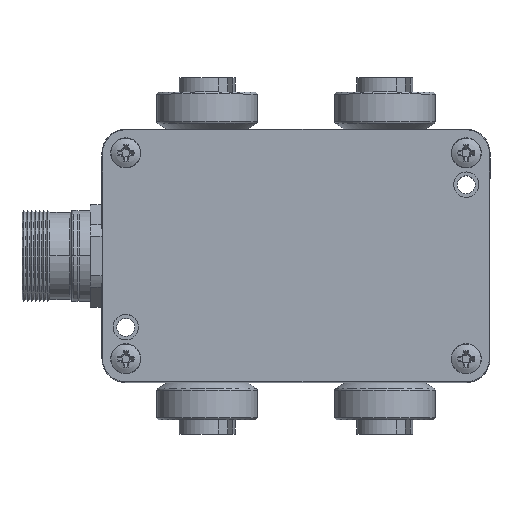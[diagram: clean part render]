
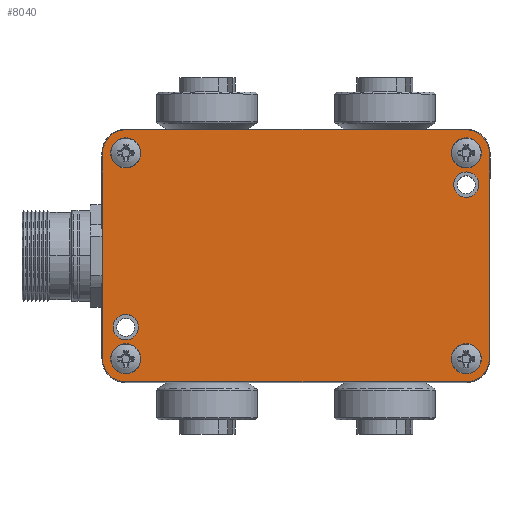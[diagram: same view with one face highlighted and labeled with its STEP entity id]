
A CAD part, top view. The second image highlights one B-rep face of the part: STEP entity #8040.
In plain terms, the highlighted planar face has unit normal (0, 0, 1).
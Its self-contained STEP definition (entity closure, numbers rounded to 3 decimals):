
#5054=CARTESIAN_POINT('',(39.2,-26.,7.5));
#5055=VERTEX_POINT('',#5054);
#5056=CARTESIAN_POINT('',(43.,-26.0,7.5));
#5057=DIRECTION('',(0.0,0.0,-1.0));
#5058=DIRECTION('',(1.0,0.0,0.0));
#5059=AXIS2_PLACEMENT_3D('',#5056,#5057,#5058);
#5060=CIRCLE('',#5059,3.8);
#5061=EDGE_CURVE('',#5055,#5055,#5060,.T.);
#5074=CARTESIAN_POINT('',(-46.8,26.,7.5));
#5075=VERTEX_POINT('',#5074);
#5076=CARTESIAN_POINT('',(-43.,26.,7.5));
#5077=DIRECTION('',(0.0,0.0,-1.0));
#5078=DIRECTION('',(1.0,0.0,0.0));
#5079=AXIS2_PLACEMENT_3D('',#5076,#5077,#5078);
#5080=CIRCLE('',#5079,3.8);
#5081=EDGE_CURVE('',#5075,#5075,#5080,.T.);
#5094=CARTESIAN_POINT('',(39.2,26.,7.5));
#5095=VERTEX_POINT('',#5094);
#5096=CARTESIAN_POINT('',(43.,26.,7.5));
#5097=DIRECTION('',(0.0,0.0,-1.0));
#5098=DIRECTION('',(1.0,0.0,0.0));
#5099=AXIS2_PLACEMENT_3D('',#5096,#5097,#5098);
#5100=CIRCLE('',#5099,3.8);
#5101=EDGE_CURVE('',#5095,#5095,#5100,.T.);
#5114=CARTESIAN_POINT('',(-46.8,-26.,7.5));
#5115=VERTEX_POINT('',#5114);
#5116=CARTESIAN_POINT('',(-43.,-26.,7.5));
#5117=DIRECTION('',(0.0,0.0,-1.0));
#5118=DIRECTION('',(1.0,0.0,0.0));
#5119=AXIS2_PLACEMENT_3D('',#5116,#5117,#5118);
#5120=CIRCLE('',#5119,3.8);
#5121=EDGE_CURVE('',#5115,#5115,#5120,.T.);
#6173=CARTESIAN_POINT('',(-39.8,-18.,7.5));
#6174=VERTEX_POINT('',#6173);
#6175=CARTESIAN_POINT('',(-43.,-18.,7.5));
#6176=DIRECTION('',(0.0,0.0,-1.0));
#6177=DIRECTION('',(-1.0,0.0,0.0));
#6178=AXIS2_PLACEMENT_3D('',#6175,#6176,#6177);
#6179=CIRCLE('',#6178,3.2);
#6180=EDGE_CURVE('',#6174,#6174,#6179,.T.);
#6196=CARTESIAN_POINT('',(46.2,18.0,7.5));
#6197=VERTEX_POINT('',#6196);
#6198=CARTESIAN_POINT('',(43.,18.,7.5));
#6199=DIRECTION('',(0.0,0.0,-1.0));
#6200=DIRECTION('',(-1.0,0.0,0.0));
#6201=AXIS2_PLACEMENT_3D('',#6198,#6199,#6200);
#6202=CIRCLE('',#6201,3.2);
#6203=EDGE_CURVE('',#6197,#6197,#6202,.T.);
#7743=CARTESIAN_POINT('',(-48.834,-26.,7.5));
#7744=VERTEX_POINT('',#7743);
#7751=CARTESIAN_POINT('',(-48.834,26.,7.5));
#7752=VERTEX_POINT('',#7751);
#7753=CARTESIAN_POINT('',(-48.834,-26.,7.5));
#7754=DIRECTION('',(0.0,1.0,0.0));
#7755=VECTOR('',#7754,52.);
#7756=LINE('',#7753,#7755);
#7757=EDGE_CURVE('',#7744,#7752,#7756,.T.);
#7789=CARTESIAN_POINT('',(-43.,31.834,7.5));
#7790=VERTEX_POINT('',#7789);
#7791=CARTESIAN_POINT('',(-43.,26.,7.5));
#7792=DIRECTION('',(0.0,0.0,-1.0));
#7793=DIRECTION('',(1.0,0.0,0.0));
#7794=AXIS2_PLACEMENT_3D('',#7791,#7792,#7793);
#7795=CIRCLE('',#7794,5.834);
#7796=EDGE_CURVE('',#7752,#7790,#7795,.T.);
#7814=CARTESIAN_POINT('',(43.,31.834,7.5));
#7815=VERTEX_POINT('',#7814);
#7816=CARTESIAN_POINT('',(-43.,31.834,7.5));
#7817=DIRECTION('',(1.0,0.0,0.0));
#7818=VECTOR('',#7817,86.);
#7819=LINE('',#7816,#7818);
#7820=EDGE_CURVE('',#7790,#7815,#7819,.T.);
#7838=CARTESIAN_POINT('',(48.834,26.,7.5));
#7839=VERTEX_POINT('',#7838);
#7840=CARTESIAN_POINT('',(43.,26.,7.5));
#7841=DIRECTION('',(0.0,0.0,-1.0));
#7842=DIRECTION('',(0.0,-1.0,0.0));
#7843=AXIS2_PLACEMENT_3D('',#7840,#7841,#7842);
#7844=CIRCLE('',#7843,5.834);
#7845=EDGE_CURVE('',#7815,#7839,#7844,.T.);
#7863=CARTESIAN_POINT('',(48.834,-26.0,7.5));
#7864=VERTEX_POINT('',#7863);
#7865=CARTESIAN_POINT('',(48.834,26.,7.5));
#7866=DIRECTION('',(0.0,-1.0,0.0));
#7867=VECTOR('',#7866,52.);
#7868=LINE('',#7865,#7867);
#7869=EDGE_CURVE('',#7839,#7864,#7868,.T.);
#7887=CARTESIAN_POINT('',(43.,-31.834,7.5));
#7888=VERTEX_POINT('',#7887);
#7889=CARTESIAN_POINT('',(43.,-26.0,7.5));
#7890=DIRECTION('',(0.0,0.0,-1.0));
#7891=DIRECTION('',(-1.0,0.0,0.0));
#7892=AXIS2_PLACEMENT_3D('',#7889,#7890,#7891);
#7893=CIRCLE('',#7892,5.834);
#7894=EDGE_CURVE('',#7864,#7888,#7893,.T.);
#7912=CARTESIAN_POINT('',(-43.,-31.834,7.5));
#7913=VERTEX_POINT('',#7912);
#7914=CARTESIAN_POINT('',(43.,-31.834,7.5));
#7915=DIRECTION('',(-1.0,0.0,0.0));
#7916=VECTOR('',#7915,86.);
#7917=LINE('',#7914,#7916);
#7918=EDGE_CURVE('',#7888,#7913,#7917,.T.);
#7936=CARTESIAN_POINT('',(-43.,-26.,7.5));
#7937=DIRECTION('',(0.0,0.0,-1.0));
#7938=DIRECTION('',(0.0,1.0,0.0));
#7939=AXIS2_PLACEMENT_3D('',#7936,#7937,#7938);
#7940=CIRCLE('',#7939,5.834);
#7941=EDGE_CURVE('',#7913,#7744,#7940,.T.);
#8007=CARTESIAN_POINT('',(0.,0.,7.5));
#8008=DIRECTION('',(0.0,0.0,-1.0));
#8009=DIRECTION('',(1.0,0.0,0.0));
#8010=AXIS2_PLACEMENT_3D('',#8007,#8008,#8009);
#8011=PLANE('',#8010);
#8012=ORIENTED_EDGE('',*,*,#7757,.F.);
#8013=ORIENTED_EDGE('',*,*,#7941,.F.);
#8014=ORIENTED_EDGE('',*,*,#7918,.F.);
#8015=ORIENTED_EDGE('',*,*,#7894,.F.);
#8016=ORIENTED_EDGE('',*,*,#7869,.F.);
#8017=ORIENTED_EDGE('',*,*,#7845,.F.);
#8018=ORIENTED_EDGE('',*,*,#7820,.F.);
#8019=ORIENTED_EDGE('',*,*,#7796,.F.);
#8020=EDGE_LOOP('',(#8012,#8013,#8014,#8015,#8016,#8017,#8018,#8019));
#8021=FACE_OUTER_BOUND('',#8020,.T.);
#8022=ORIENTED_EDGE('',*,*,#5061,.T.);
#8023=EDGE_LOOP('',(#8022));
#8024=FACE_BOUND('',#8023,.T.);
#8025=ORIENTED_EDGE('',*,*,#5081,.T.);
#8026=EDGE_LOOP('',(#8025));
#8027=FACE_BOUND('',#8026,.T.);
#8028=ORIENTED_EDGE('',*,*,#5101,.T.);
#8029=EDGE_LOOP('',(#8028));
#8030=FACE_BOUND('',#8029,.T.);
#8031=ORIENTED_EDGE('',*,*,#5121,.T.);
#8032=EDGE_LOOP('',(#8031));
#8033=FACE_BOUND('',#8032,.T.);
#8034=ORIENTED_EDGE('',*,*,#6180,.T.);
#8035=EDGE_LOOP('',(#8034));
#8036=FACE_BOUND('',#8035,.T.);
#8037=ORIENTED_EDGE('',*,*,#6203,.T.);
#8038=EDGE_LOOP('',(#8037));
#8039=FACE_BOUND('',#8038,.T.);
#8040=ADVANCED_FACE('',(#8021,#8024,#8027,#8030,#8033,#8036,#8039),#8011,.F.);
